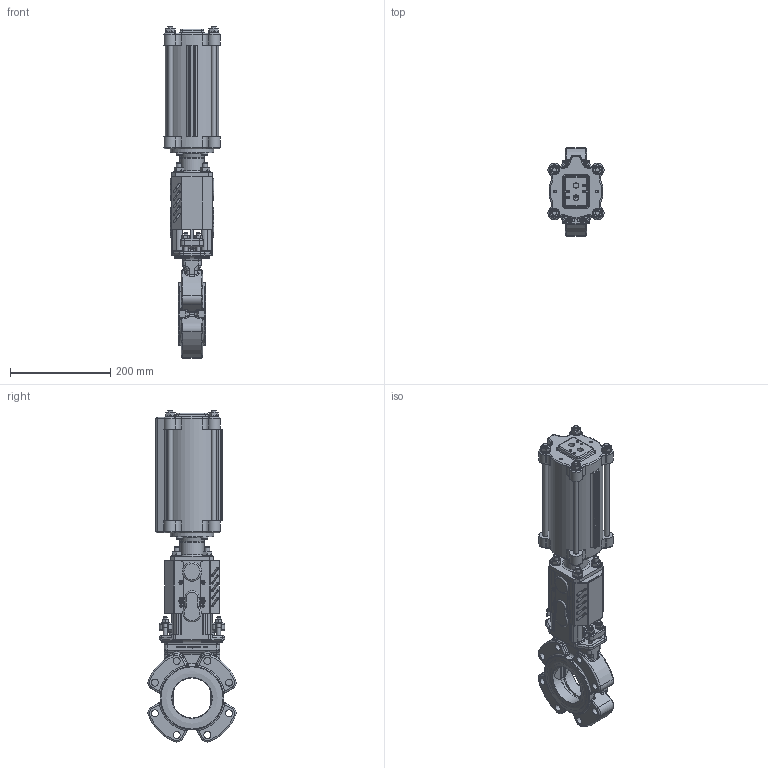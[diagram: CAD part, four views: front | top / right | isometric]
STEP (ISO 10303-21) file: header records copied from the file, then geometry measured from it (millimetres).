
FILE_DESCRIPTION(/* description */ (''),/* implementation_level */ '2;1');
FILE_NAME(/* name */ 'F:\Emir\3D-block special\WB\WB14-WFL-DN80-PN10-FRSC100-115.stp',/* time_stamp */ '2018-07-16T14:54:52+02:00',/* author */ ('emimus'),/* organization */ (''),/* preprocessor_version */ 'ST-DEVELOPER v17',/* originating_system */ 'Autodesk Inventor 2018',/* authorisation */ '');
FILE_SCHEMA (('CONFIG_CONTROL_DESIGN'));
Products named in the file (1): WB14-WFL-DN80-PN10-FRSC100-115
Bounding box: 112.17 x 175.75 x 662.38 mm (x, y, z)
Volume: 2396727.4 mm3; surface area: 759124.8 mm2
Topology: 5 solids, 5 shells, 3091 faces, 7909 edges, 4922 vertices
Faces by surface type: plane 1109, cylinder 719, bspline 635, torus 328, cone 218, sphere 82
Full cylindrical faces by diameter (mm): 3 x10, 4 x4, 4.134 x4, 4.2 x16, 4.5 x4, 4.917 x4, 6 x7, 8 x19, 8.376 x4, 8.4 x4, 9 x2, 10 x20, 10.106 x1, 10.5 x8, 11 x8, 11.445 x2, 13 x4, 13.835 x12, 14 x1, 14.376 x1, 15 x5, 16 x4, 20 x9, 20.15 x2, 22 x1, 24 x3, 26 x1, 26.4 x1, 28 x2, 35 x1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
Entity records: 117022 total; most frequent: CARTESIAN_POINT 45269, ORIENTED_EDGE 15658, DIRECTION 14167, EDGE_CURVE 7829, AXIS2_PLACEMENT_3D 5459, VERTEX_POINT 4922, EDGE_LOOP 3391, LINE 3249
